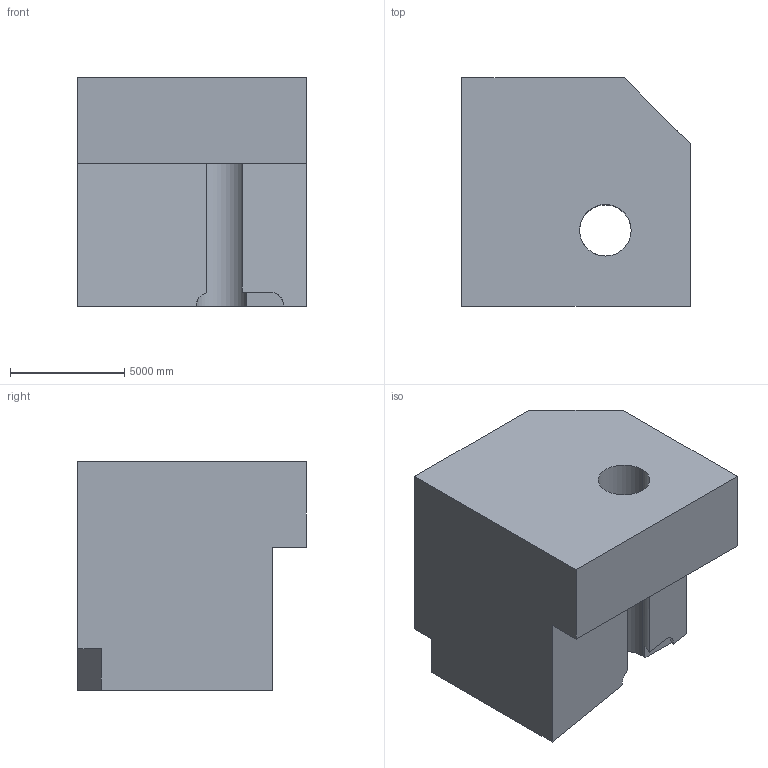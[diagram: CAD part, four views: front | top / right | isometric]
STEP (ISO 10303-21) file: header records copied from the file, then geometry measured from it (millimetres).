
FILE_DESCRIPTION (( 'STEP AP203' ), '1' );
FILE_NAME ('554.STEP', '2022-07-29T11:47:41', ( 'user' ), ( '' ), 'SwSTEP 2.0', 'SolidWorks 2021', '' );
FILE_SCHEMA (( 'CONFIG_CONTROL_DESIGN' ));
Length unit declared in the file: centimetre
Products named in the file (1): 554
Bounding box: 10000 x 10000 x 10000 mm (x, y, z)
Volume: 743774230799.8 mm3; surface area: 632818293.6 mm2
Topology: 1 solids, 1 shells, 21 faces, 60 edges, 40 vertices
Faces by surface type: plane 15, cylinder 6
Entity records: 833 total; most frequent: CARTESIAN_POINT 198, ORIENTED_EDGE 120, DIRECTION 113, EDGE_CURVE 60, VECTOR 43, LINE 43, VERTEX_POINT 40, AXIS2_PLACEMENT_3D 35
